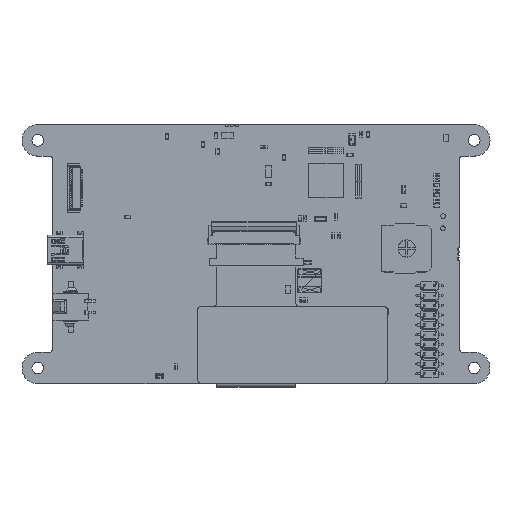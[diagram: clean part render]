
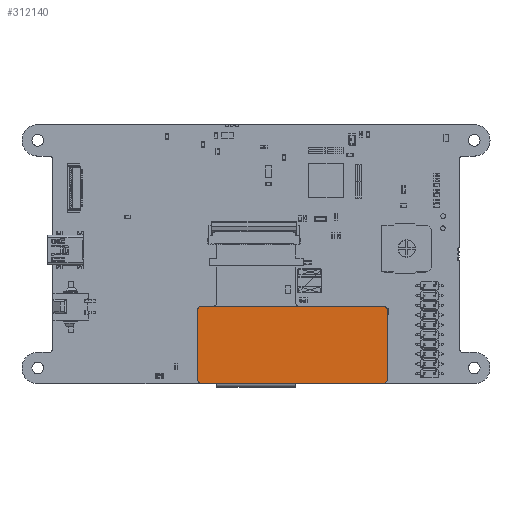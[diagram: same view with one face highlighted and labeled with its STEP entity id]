
A CAD part, top view. The second image highlights one B-rep face of the part: STEP entity #312140.
In plain terms, the highlighted planar face has unit normal (0, 0, 1) as drawn and (0, 0, -1) by its records, which use the part's own axes.
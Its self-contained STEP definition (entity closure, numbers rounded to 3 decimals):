
#2513 = ORIENTED_EDGE ( 'NONE', *, *, #355649, .T. ) ;
#8617 = EDGE_LOOP ( 'NONE', ( #323311, #129872, #2513, #21494, #119953, #302180, #187017, #282810 ) ) ;
#21494 = ORIENTED_EDGE ( 'NONE', *, *, #287806, .T. ) ;
#24443 = DIRECTION ( 'NONE',  ( 0., -1., 0. ) ) ;
#25817 = VERTEX_POINT ( 'NONE', #355058 ) ;
#26699 = DIRECTION ( 'NONE',  ( 1., 0., 0. ) ) ;
#29670 = LINE ( 'NONE', #120626, #278952 ) ;
#32794 = DIRECTION ( 'NONE',  ( 0., -1., 0. ) ) ;
#33749 = DIRECTION ( 'NONE',  ( -1., 0., 0. ) ) ;
#35402 = EDGE_CURVE ( 'NONE', #25817, #222641, #195782, .T. ) ;
#38142 = CARTESIAN_POINT ( 'NONE',  ( 15.2, -17., -4.327 ) ) ;
#51218 = CARTESIAN_POINT ( 'NONE',  ( -33.16, -35., -4.327 ) ) ;
#52172 = FACE_OUTER_BOUND ( 'NONE', #8617, .T. ) ;
#55075 = DIRECTION ( 'NONE',  ( 0., 0., -1. ) ) ;
#56051 = DIRECTION ( 'NONE',  ( 0., 0., 1. ) ) ;
#60792 = VECTOR ( 'NONE', #33749, 1000. ) ;
#63122 = AXIS2_PLACEMENT_3D ( 'NONE', #233364, #359486, #32794 ) ;
#70762 = CARTESIAN_POINT ( 'NONE',  ( -34.16, -35., -4.327 ) ) ;
#82076 = LINE ( 'NONE', #298064, #257623 ) ;
#90905 = CIRCLE ( 'NONE', #293203, 1. ) ;
#99835 = EDGE_CURVE ( 'NONE', #289780, #268882, #239173, .T. ) ;
#111475 = PLANE ( 'NONE',  #294209 ) ;
#112781 = DIRECTION ( 'NONE',  ( 0., 1., 0. ) ) ;
#113703 = DIRECTION ( 'NONE',  ( 0., 0., -1. ) ) ;
#119953 = ORIENTED_EDGE ( 'NONE', *, *, #223588, .T. ) ;
#120626 = CARTESIAN_POINT ( 'NONE',  ( -34.16, -16., -4.327 ) ) ;
#120816 = CARTESIAN_POINT ( 'NONE',  ( 14.2, -16., -4.327 ) ) ;
#129872 = ORIENTED_EDGE ( 'NONE', *, *, #99835, .T. ) ;
#136606 = CIRCLE ( 'NONE', #257062, 1. ) ;
#140051 = VERTEX_POINT ( 'NONE', #120816 ) ;
#141490 = CARTESIAN_POINT ( 'NONE',  ( 14.2, -17., -4.327 ) ) ;
#172850 = CARTESIAN_POINT ( 'NONE',  ( 0., 0., -4.327 ) ) ;
#185889 = VERTEX_POINT ( 'NONE', #70762 ) ;
#187017 = ORIENTED_EDGE ( 'NONE', *, *, #227367, .T. ) ;
#195782 = CIRCLE ( 'NONE', #63122, 1. ) ;
#196438 = DIRECTION ( 'NONE',  ( 0., -1., 0. ) ) ;
#199440 = CARTESIAN_POINT ( 'NONE',  ( 15.2, -35., -4.327 ) ) ;
#210168 = EDGE_CURVE ( 'NONE', #140051, #353926, #136606, .T. ) ;
#211347 = EDGE_CURVE ( 'NONE', #353926, #289780, #283726, .T. ) ;
#213765 = AXIS2_PLACEMENT_3D ( 'NONE', #321177, #348835, #196438 ) ;
#219256 = CARTESIAN_POINT ( 'NONE',  ( 14.2, -36., -4.327 ) ) ;
#222254 = CARTESIAN_POINT ( 'NONE',  ( 15.2, -16., -4.327 ) ) ;
#222641 = VERTEX_POINT ( 'NONE', #276430 ) ;
#223588 = EDGE_CURVE ( 'NONE', #185889, #25817, #29670, .T. ) ;
#227367 = EDGE_CURVE ( 'NONE', #222641, #140051, #82076, .T. ) ;
#232699 = DIRECTION ( 'NONE',  ( 0., -1., 0. ) ) ;
#233364 = CARTESIAN_POINT ( 'NONE',  ( -33.16, -17., -4.327 ) ) ;
#239173 = CIRCLE ( 'NONE', #213765, 1. ) ;
#243185 = CARTESIAN_POINT ( 'NONE',  ( -33.16, -36., -4.327 ) ) ;
#257062 = AXIS2_PLACEMENT_3D ( 'NONE', #141490, #113703, #232699 ) ;
#257623 = VECTOR ( 'NONE', #26699, 1000. ) ;
#268882 = VERTEX_POINT ( 'NONE', #219256 ) ;
#276430 = CARTESIAN_POINT ( 'NONE',  ( -33.16, -16., -4.327 ) ) ;
#278952 = VECTOR ( 'NONE', #112781, 1000. ) ;
#282810 = ORIENTED_EDGE ( 'NONE', *, *, #210168, .T. ) ;
#283726 = LINE ( 'NONE', #222254, #346662 ) ;
#287806 = EDGE_CURVE ( 'NONE', #330606, #185889, #90905, .T. ) ;
#289780 = VERTEX_POINT ( 'NONE', #199440 ) ;
#293203 = AXIS2_PLACEMENT_3D ( 'NONE', #51218, #55075, #322544 ) ;
#294209 = AXIS2_PLACEMENT_3D ( 'NONE', #172850, #56051, #24443 ) ;
#298064 = CARTESIAN_POINT ( 'NONE',  ( -34.16, -16., -4.327 ) ) ;
#302180 = ORIENTED_EDGE ( 'NONE', *, *, #35402, .T. ) ;
#305628 = DIRECTION ( 'NONE',  ( 0., -1., 0. ) ) ;
#308947 = CARTESIAN_POINT ( 'NONE',  ( -34.16, -36., -4.327 ) ) ;
#312140 = ADVANCED_FACE ( 'NONE', ( #52172 ), #111475, .F. ) ;
#321177 = CARTESIAN_POINT ( 'NONE',  ( 14.2, -35., -4.327 ) ) ;
#322544 = DIRECTION ( 'NONE',  ( 0., -1., 0. ) ) ;
#323311 = ORIENTED_EDGE ( 'NONE', *, *, #211347, .T. ) ;
#330606 = VERTEX_POINT ( 'NONE', #243185 ) ;
#338605 = LINE ( 'NONE', #308947, #60792 ) ;
#346662 = VECTOR ( 'NONE', #305628, 1000. ) ;
#348835 = DIRECTION ( 'NONE',  ( 0., 0., -1. ) ) ;
#353926 = VERTEX_POINT ( 'NONE', #38142 ) ;
#355058 = CARTESIAN_POINT ( 'NONE',  ( -34.16, -17., -4.327 ) ) ;
#355649 = EDGE_CURVE ( 'NONE', #268882, #330606, #338605, .T. ) ;
#359486 = DIRECTION ( 'NONE',  ( 0., 0., -1. ) ) ;
